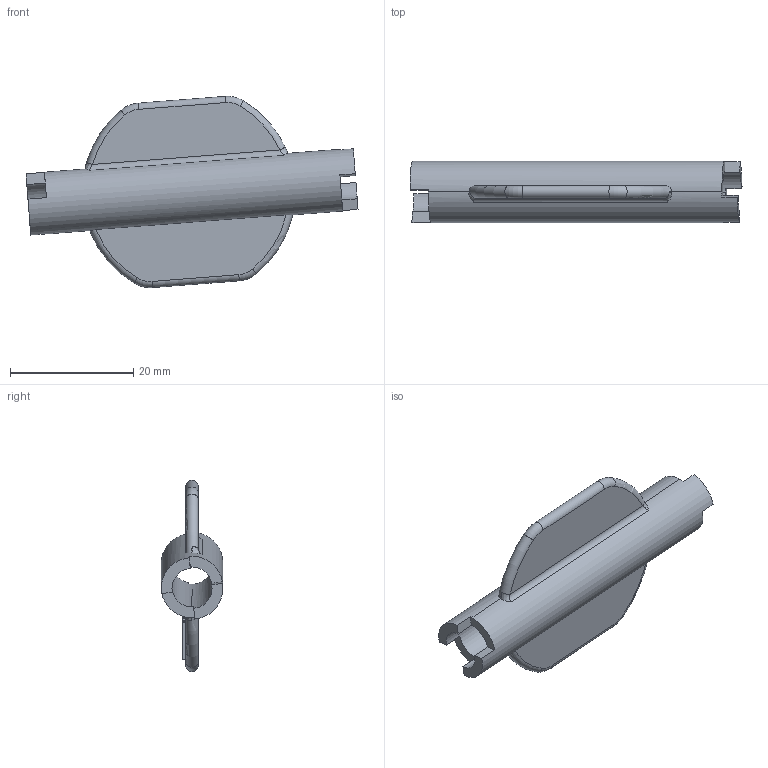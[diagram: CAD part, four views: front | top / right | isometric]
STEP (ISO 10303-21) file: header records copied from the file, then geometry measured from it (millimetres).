
FILE_DESCRIPTION((''),'2;1');
FILE_NAME('0000237109_PRT','2025-11-12T18:33:26',('Wyndorps'),(''),'CREO PARAMETRIC BY PTC INC, 2025010','CREO PARAMETRIC BY PTC INC, 2025010','');
FILE_SCHEMA(('CONFIG_CONTROL_DESIGN'));
Length unit declared in the file: millimetre
Products named in the file (1): 0000237109_PRT
Bounding box: 53.79 x 10 x 30.96 mm (x, y, z)
Volume: 3354 mm3; surface area: 3820.8 mm2
Topology: 1 solids, 1 shells, 96 faces, 259 edges, 170 vertices
Faces by surface type: plane 57, extrusion 15, cylinder 12, torus 8, bspline 4
Entity records: 3464 total; most frequent: CARTESIAN_POINT 1068, ORIENTED_EDGE 518, DIRECTION 434, EDGE_CURVE 259, VERTEX_POINT 170, VECTOR 168, LINE 153, AXIS2_PLACEMENT_3D 133
